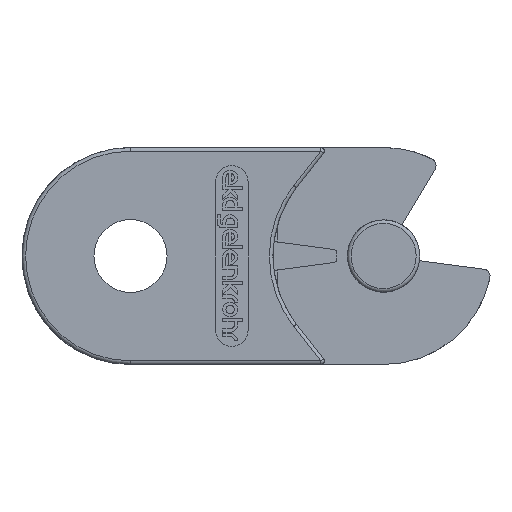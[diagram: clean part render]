
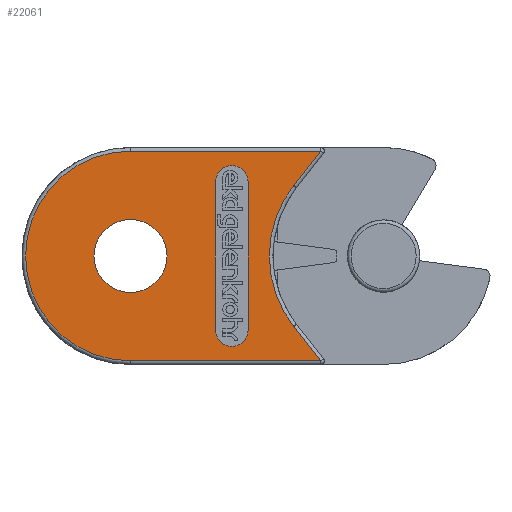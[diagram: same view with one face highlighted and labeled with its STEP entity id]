
A CAD part, left-side view. The second image highlights one B-rep face of the part: STEP entity #22061.
In plain terms, the highlighted planar face has unit normal (-1, 0, 0).
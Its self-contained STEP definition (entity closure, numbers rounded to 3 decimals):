
#14272=CARTESIAN_POINT('',(0.0,12.85,15.));
#14273=VERTEX_POINT('',#14272);
#14274=CARTESIAN_POINT('',(0.0,17.9,15.));
#14275=DIRECTION('',(1.0,0.0,0.0));
#14276=DIRECTION('',(0.0,1.0,0.0));
#14277=AXIS2_PLACEMENT_3D('',#14274,#14275,#14276);
#14278=CIRCLE('',#14277,5.05);
#14279=EDGE_CURVE('',#14273,#14273,#14278,.T.);
#14723=CARTESIAN_POINT('',(0.0,-8.393,29.5));
#14724=VERTEX_POINT('',#14723);
#14748=CARTESIAN_POINT('',(0.0,-8.393,0.5));
#14749=VERTEX_POINT('',#14748);
#14772=CARTESIAN_POINT('',(0.0,-4.668,24.751));
#14773=VERTEX_POINT('',#14772);
#14788=CARTESIAN_POINT('',(0.0,-8.393,29.5));
#14789=DIRECTION('',(0.0,0.617,-0.787));
#14790=VECTOR('',#14789,6.035);
#14791=LINE('',#14788,#14790);
#14792=EDGE_CURVE('',#14724,#14773,#14791,.T.);
#14804=CARTESIAN_POINT('',(0.0,-4.668,5.249));
#14805=VERTEX_POINT('',#14804);
#14806=CARTESIAN_POINT('',(0.0,-17.1,15.));
#14807=DIRECTION('',(-1.0,0.0,0.0));
#14808=DIRECTION('',(0.0,1.,0.));
#14809=AXIS2_PLACEMENT_3D('',#14806,#14807,#14808);
#14810=CIRCLE('',#14809,15.8);
#14811=EDGE_CURVE('',#14773,#14805,#14810,.T.);
#14836=CARTESIAN_POINT('',(0.0,-4.668,5.249));
#14837=DIRECTION('',(0.0,-0.617,-0.787));
#14838=VECTOR('',#14837,6.035);
#14839=LINE('',#14836,#14838);
#14840=EDGE_CURVE('',#14805,#14749,#14839,.T.);
#14850=CARTESIAN_POINT('',(0.0,17.9,29.5));
#14851=VERTEX_POINT('',#14850);
#14861=CARTESIAN_POINT('',(0.0,17.9,29.5));
#14862=DIRECTION('',(0.0,-1.0,0.0));
#14863=VECTOR('',#14862,26.293);
#14864=LINE('',#14861,#14863);
#14865=EDGE_CURVE('',#14851,#14724,#14864,.T.);
#14882=CARTESIAN_POINT('',(0.0,17.9,0.5));
#14883=VERTEX_POINT('',#14882);
#14884=CARTESIAN_POINT('',(0.0,17.9,15.));
#14885=DIRECTION('',(1.0,0.0,0.0));
#14886=DIRECTION('',(0.0,1.0,0.0));
#14887=AXIS2_PLACEMENT_3D('',#14884,#14885,#14886);
#14888=CIRCLE('',#14887,14.5);
#14889=EDGE_CURVE('',#14883,#14851,#14888,.T.);
#14917=CARTESIAN_POINT('',(0.0,-8.393,0.5));
#14918=DIRECTION('',(0.0,1.0,0.0));
#14919=VECTOR('',#14918,26.293);
#14920=LINE('',#14917,#14919);
#14921=EDGE_CURVE('',#14749,#14883,#14920,.T.);
#15933=CARTESIAN_POINT('',(0.0,6.147,25.25));
#15934=VERTEX_POINT('',#15933);
#15935=CARTESIAN_POINT('',(0.0,1.647,25.25));
#15936=VERTEX_POINT('',#15935);
#15937=CARTESIAN_POINT('',(0.0,3.897,25.25));
#15938=DIRECTION('',(1.0,0.0,0.0));
#15939=DIRECTION('',(0.0,0.0,-1.0));
#15940=AXIS2_PLACEMENT_3D('',#15937,#15938,#15939);
#15941=CIRCLE('',#15940,2.25);
#15942=EDGE_CURVE('',#15934,#15936,#15941,.T.);
#15986=CARTESIAN_POINT('',(0.0,6.147,4.75));
#15987=VERTEX_POINT('',#15986);
#15994=CARTESIAN_POINT('',(0.0,1.647,4.75));
#15995=VERTEX_POINT('',#15994);
#15996=CARTESIAN_POINT('',(0.0,3.897,4.75));
#15997=DIRECTION('',(1.0,0.0,0.0));
#15998=DIRECTION('',(0.0,0.0,-1.0));
#15999=AXIS2_PLACEMENT_3D('',#15996,#15997,#15998);
#16000=CIRCLE('',#15999,2.25);
#16001=EDGE_CURVE('',#15995,#15987,#16000,.T.);
#20991=CARTESIAN_POINT('',(0.0,1.647,25.25));
#20992=DIRECTION('',(0.0,0.0,-1.0));
#20993=VECTOR('',#20992,20.5);
#20994=LINE('',#20991,#20993);
#20995=EDGE_CURVE('',#15936,#15995,#20994,.T.);
#21013=CARTESIAN_POINT('',(0.0,6.147,4.75));
#21014=DIRECTION('',(0.0,0.0,1.0));
#21015=VECTOR('',#21014,20.5);
#21016=LINE('',#21013,#21015);
#21017=EDGE_CURVE('',#15987,#15934,#21016,.T.);
#22039=CARTESIAN_POINT('',(0.0,0.189,15.));
#22040=DIRECTION('',(-1.0,0.0,0.0));
#22041=DIRECTION('',(0.0,-1.0,0.0));
#22042=AXIS2_PLACEMENT_3D('',#22039,#22040,#22041);
#22043=PLANE('',#22042);
#22044=ORIENTED_EDGE('',*,*,#14921,.F.);
#22045=ORIENTED_EDGE('',*,*,#14840,.F.);
#22046=ORIENTED_EDGE('',*,*,#14811,.F.);
#22047=ORIENTED_EDGE('',*,*,#14792,.F.);
#22048=ORIENTED_EDGE('',*,*,#14865,.F.);
#22049=ORIENTED_EDGE('',*,*,#14889,.F.);
#22050=EDGE_LOOP('',(#22044,#22045,#22046,#22047,#22048,#22049));
#22051=FACE_OUTER_BOUND('',#22050,.T.);
#22052=ORIENTED_EDGE('',*,*,#16001,.T.);
#22053=ORIENTED_EDGE('',*,*,#21017,.T.);
#22054=ORIENTED_EDGE('',*,*,#15942,.T.);
#22055=ORIENTED_EDGE('',*,*,#20995,.T.);
#22056=EDGE_LOOP('',(#22052,#22053,#22054,#22055));
#22057=FACE_BOUND('',#22056,.T.);
#22058=ORIENTED_EDGE('',*,*,#14279,.T.);
#22059=EDGE_LOOP('',(#22058));
#22060=FACE_BOUND('',#22059,.T.);
#22061=ADVANCED_FACE('',(#22051,#22057,#22060),#22043,.T.);
